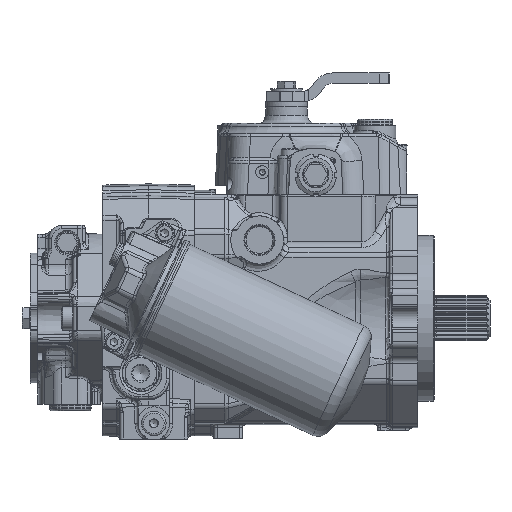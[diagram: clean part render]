
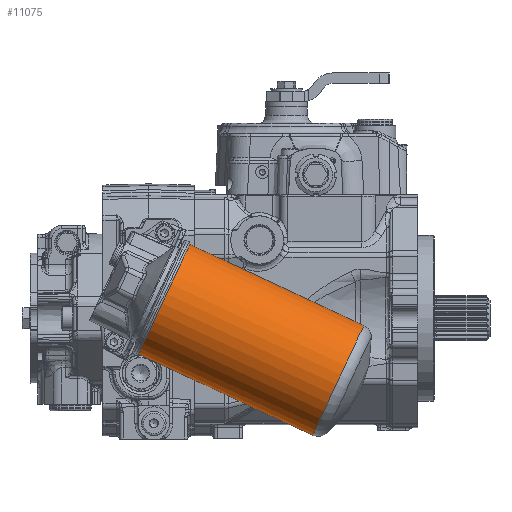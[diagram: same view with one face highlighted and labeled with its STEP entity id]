
A CAD part, left-side view. The second image highlights one B-rep face of the part: STEP entity #11075.
In plain terms, the highlighted cylindrical face has radius 46.5 mm (diameter 93 mm), a full revolution.
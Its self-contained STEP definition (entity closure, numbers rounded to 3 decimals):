
#2188=CYLINDRICAL_SURFACE('',#61479,46.5);
#6091=FACE_BOUND('',#19384,.T.);
#6092=FACE_BOUND('',#19385,.T.);
#7952=CIRCLE('',#61475,46.5);
#7953=CIRCLE('',#61478,46.5);
#11075=ADVANCED_FACE('',(#6091,#6092),#2188,.T.);
#19384=EDGE_LOOP('',(#27748));
#19385=EDGE_LOOP('',(#27749));
#27748=ORIENTED_EDGE('',*,*,#47398,.T.);
#27749=ORIENTED_EDGE('',*,*,#47399,.T.);
#41001=VERTEX_POINT('',#94633);
#41002=VERTEX_POINT('',#94637);
#47398=EDGE_CURVE('',#41001,#41001,#7952,.T.);
#47399=EDGE_CURVE('',#41002,#41002,#7953,.T.);
#61475=AXIS2_PLACEMENT_3D('',#94632,#70779,#70780);
#61478=AXIS2_PLACEMENT_3D('',#94636,#70785,#70786);
#61479=AXIS2_PLACEMENT_3D('',#94638,#70787,#70788);
#70779=DIRECTION('',(0.,-0.906,-0.423));
#70780=DIRECTION('',(-0.826,0.238,-0.511));
#70785=DIRECTION('',(0.,0.906,0.423));
#70786=DIRECTION('',(0.826,-0.238,0.511));
#70787=DIRECTION('',(0.,-0.906,-0.423));
#70788=DIRECTION('',(-0.826,0.238,-0.511));
#94632=CARTESIAN_POINT('',(-166.,194.308,14.635));
#94633=CARTESIAN_POINT('',(-204.405,205.388,-9.126));
#94636=CARTESIAN_POINT('',(-166.,61.001,-47.527));
#94637=CARTESIAN_POINT('',(-127.595,49.921,-23.766));
#94638=CARTESIAN_POINT('',(-166.,43.952,-55.478));
